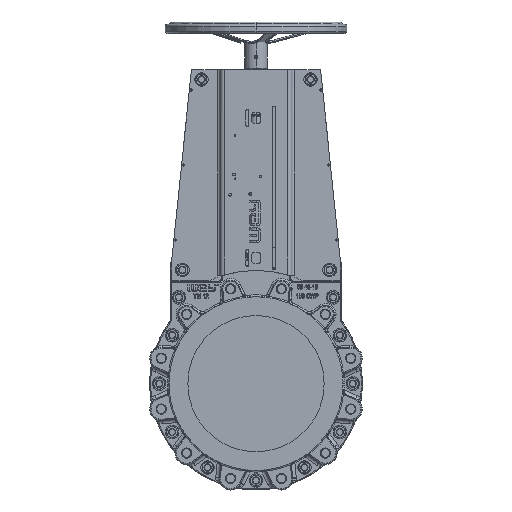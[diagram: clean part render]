
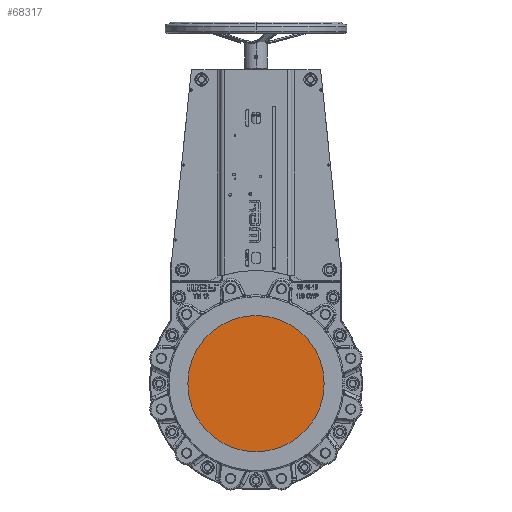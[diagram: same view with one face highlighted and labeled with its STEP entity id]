
A CAD part, top view. The second image highlights one B-rep face of the part: STEP entity #68317.
In plain terms, the highlighted planar face has unit normal (0, 0, 1).
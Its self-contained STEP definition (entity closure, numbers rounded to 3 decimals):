
#9446 = CARTESIAN_POINT ( 'NONE',  ( 150., 0., -0.25 ) ) ;
#12001 = PLANE ( 'NONE',  #94711 ) ;
#17237 = FACE_OUTER_BOUND ( 'NONE', #106629, .T. ) ;
#20297 = CARTESIAN_POINT ( 'NONE',  ( 0., 0., -0.25 ) ) ;
#26099 = AXIS2_PLACEMENT_3D ( 'NONE', #20297, #96152, #31182 ) ;
#26646 = ORIENTED_EDGE ( 'NONE', *, *, #111158, .T. ) ;
#30961 = CARTESIAN_POINT ( 'NONE',  ( 0., 0., -0.25 ) ) ;
#31182 = DIRECTION ( 'NONE',  ( 1., 0., 0. ) ) ;
#41863 = DIRECTION ( 'NONE',  ( 1., 0., 0. ) ) ;
#44711 = DIRECTION ( 'NONE',  ( 0., 0., 1. ) ) ;
#45261 = AXIS2_PLACEMENT_3D ( 'NONE', #30961, #106833, #41863 ) ;
#46399 = EDGE_CURVE ( 'NONE', #71843, #114390, #67297, .T. ) ;
#55886 = ORIENTED_EDGE ( 'NONE', *, *, #46399, .T. ) ;
#67297 = CIRCLE ( 'NONE', #26099, 150. ) ;
#68317 = ADVANCED_FACE ( 'NONE', ( #17237 ), #12001, .T. ) ;
#71843 = VERTEX_POINT ( 'NONE', #9446 ) ;
#87799 = CARTESIAN_POINT ( 'NONE',  ( 0., 0., -0.25 ) ) ;
#94711 = AXIS2_PLACEMENT_3D ( 'NONE', #87799, #44711, #120526 ) ;
#96152 = DIRECTION ( 'NONE',  ( 0., 0., 1. ) ) ;
#104538 = CIRCLE ( 'NONE', #45261, 150. ) ;
#106629 = EDGE_LOOP ( 'NONE', ( #26646, #55886 ) ) ;
#106833 = DIRECTION ( 'NONE',  ( 0., 0., 1. ) ) ;
#111158 = EDGE_CURVE ( 'NONE', #114390, #71843, #104538, .T. ) ;
#114390 = VERTEX_POINT ( 'NONE', #134668 ) ;
#120526 = DIRECTION ( 'NONE',  ( 1., 0., 0. ) ) ;
#134668 = CARTESIAN_POINT ( 'NONE',  ( -150., 0., -0.25 ) ) ;
